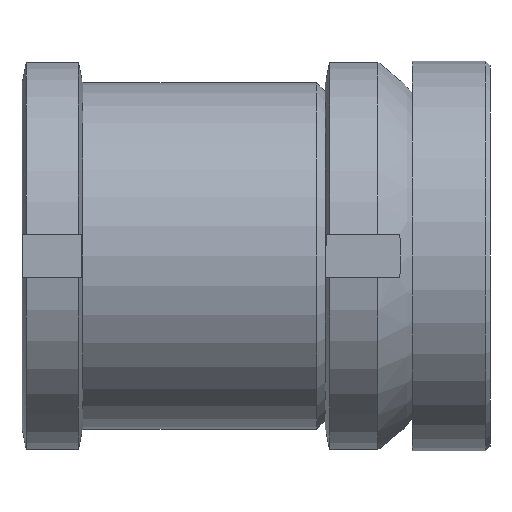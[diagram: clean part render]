
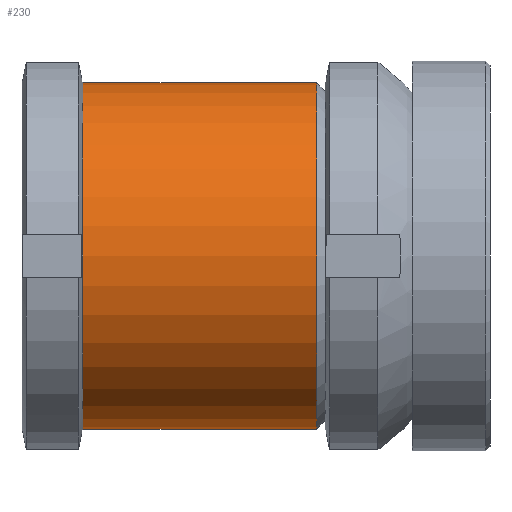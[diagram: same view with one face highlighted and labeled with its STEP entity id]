
A CAD part, front view. The second image highlights one B-rep face of the part: STEP entity #230.
In plain terms, the highlighted cylindrical face has radius 20 mm (diameter 40 mm), a full revolution.
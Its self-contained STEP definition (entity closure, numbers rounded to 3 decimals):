
#230 = ADVANCED_FACE( '', ( #326, #327 ), #328, .T. );
#326 = FACE_OUTER_BOUND( '', #481, .T. );
#327 = FACE_OUTER_BOUND( '', #482, .T. );
#328 = CYLINDRICAL_SURFACE( '', #483, 20. );
#481 = EDGE_LOOP( '', ( #761 ) );
#482 = EDGE_LOOP( '', ( #762 ) );
#483 = AXIS2_PLACEMENT_3D( '', #763, #764, #765 );
#761 = ORIENTED_EDGE( '', *, *, #1032, .F. );
#762 = ORIENTED_EDGE( '', *, *, #1066, .T. );
#763 = CARTESIAN_POINT( '', ( 0., 0., 0. ) );
#764 = DIRECTION( '', ( 0., 1., 0. ) );
#765 = DIRECTION( '', ( 0., 0., -1. ) );
#1032 = EDGE_CURVE( '', #1174, #1174, #1175, .T. );
#1066 = EDGE_CURVE( '', #1227, #1227, #1228, .T. );
#1174 = VERTEX_POINT( '', #1458 );
#1175 = CIRCLE( '', #1459, 20. );
#1227 = VERTEX_POINT( '', #1579 );
#1228 = CIRCLE( '', #1580, 20. );
#1458 = CARTESIAN_POINT( '', ( 0., 7., -20. ) );
#1459 = AXIS2_PLACEMENT_3D( '', #1795, #1796, #1797 );
#1579 = CARTESIAN_POINT( '', ( 0., 34., -20. ) );
#1580 = AXIS2_PLACEMENT_3D( '', #1836, #1837, #1838 );
#1795 = CARTESIAN_POINT( '', ( 0., 7., 0. ) );
#1796 = DIRECTION( '', ( 0., -1., 0. ) );
#1797 = DIRECTION( '', ( 0., 0., -1. ) );
#1836 = CARTESIAN_POINT( '', ( 0., 34., 0. ) );
#1837 = DIRECTION( '', ( 0., -1., 0. ) );
#1838 = DIRECTION( '', ( 0., 0., -1. ) );
